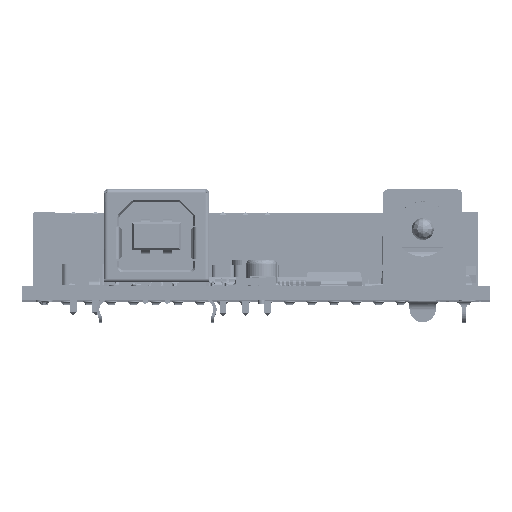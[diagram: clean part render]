
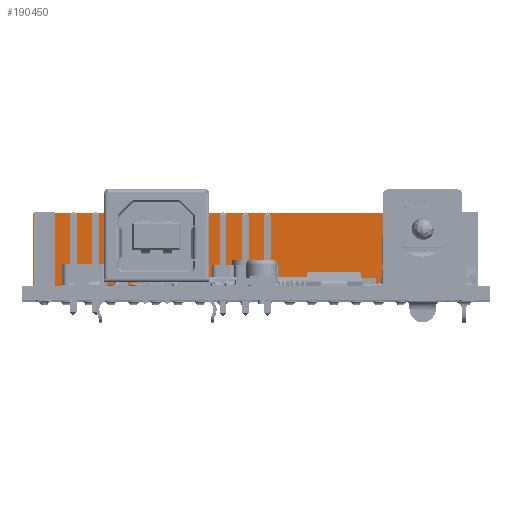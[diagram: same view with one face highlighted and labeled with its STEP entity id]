
A CAD part, top view. The second image highlights one B-rep face of the part: STEP entity #190450.
In plain terms, the highlighted planar face has unit normal (0, 0, 1).
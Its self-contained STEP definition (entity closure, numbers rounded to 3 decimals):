
#4177 = VERTEX_POINT ( 'NONE', #150287 ) ;
#8002 = ORIENTED_EDGE ( 'NONE', *, *, #11035, .T. ) ;
#11035 = EDGE_CURVE ( 'NONE', #367711, #4177, #252082, .T. ) ;
#13397 = FACE_OUTER_BOUND ( 'NONE', #190448, .T. ) ;
#19433 = CARTESIAN_POINT ( 'NONE',  ( -1.27, 8.51, 2.475 ) ) ;
#29176 = EDGE_CURVE ( 'NONE', #233909, #81164, #52532, .T. ) ;
#52532 = LINE ( 'NONE', #175857, #377470 ) ;
#60820 = DIRECTION ( 'NONE',  ( 0., 1., 0. ) ) ;
#81164 = VERTEX_POINT ( 'NONE', #360959 ) ;
#94623 = CARTESIAN_POINT ( 'NONE',  ( 44.45, 0., 2.475 ) ) ;
#100785 = CARTESIAN_POINT ( 'NONE',  ( 44.45, 0., 2.475 ) ) ;
#111834 = ORIENTED_EDGE ( 'NONE', *, *, #344199, .T. ) ;
#150287 = CARTESIAN_POINT ( 'NONE',  ( 44.45, 8.51, 2.475 ) ) ;
#160320 = VECTOR ( 'NONE', #328632, 1000. ) ;
#172827 = DIRECTION ( 'NONE',  ( 0., 0., -1. ) ) ;
#175857 = CARTESIAN_POINT ( 'NONE',  ( -1.27, 4.255, 2.475 ) ) ;
#188304 = CARTESIAN_POINT ( 'NONE',  ( 44.45, 4.255, 2.475 ) ) ;
#190448 = EDGE_LOOP ( 'NONE', ( #8002, #394991, #194371, #111834 ) ) ;
#190450 = ADVANCED_FACE ( 'NONE', ( #13397 ), #330056, .F. ) ;
#193482 = VECTOR ( 'NONE', #60820, 1000. ) ;
#194371 = ORIENTED_EDGE ( 'NONE', *, *, #29176, .T. ) ;
#233909 = VERTEX_POINT ( 'NONE', #319618 ) ;
#252082 = LINE ( 'NONE', #188304, #193482 ) ;
#273594 = DIRECTION ( 'NONE',  ( 0., -1., 0. ) ) ;
#278706 = DIRECTION ( 'NONE',  ( 1., 0., 0. ) ) ;
#310527 = LINE ( 'NONE', #19433, #373868 ) ;
#319618 = CARTESIAN_POINT ( 'NONE',  ( -1.27, 8.51, 2.475 ) ) ;
#328632 = DIRECTION ( 'NONE',  ( 1., 0., 0. ) ) ;
#330056 = PLANE ( 'NONE',  #407623 ) ;
#344199 = EDGE_CURVE ( 'NONE', #81164, #367711, #380466, .T. ) ;
#360959 = CARTESIAN_POINT ( 'NONE',  ( -1.27, 0., 2.475 ) ) ;
#362609 = CARTESIAN_POINT ( 'NONE',  ( 44.45, 0., 2.475 ) ) ;
#367711 = VERTEX_POINT ( 'NONE', #94623 ) ;
#373868 = VECTOR ( 'NONE', #278706, 1000. ) ;
#377470 = VECTOR ( 'NONE', #273594, 1000. ) ;
#380466 = LINE ( 'NONE', #362609, #160320 ) ;
#394991 = ORIENTED_EDGE ( 'NONE', *, *, #410911, .F. ) ;
#400226 = DIRECTION ( 'NONE',  ( -1., 0., 0. ) ) ;
#407623 = AXIS2_PLACEMENT_3D ( 'NONE', #100785, #172827, #400226 ) ;
#410911 = EDGE_CURVE ( 'NONE', #233909, #4177, #310527, .T. ) ;
